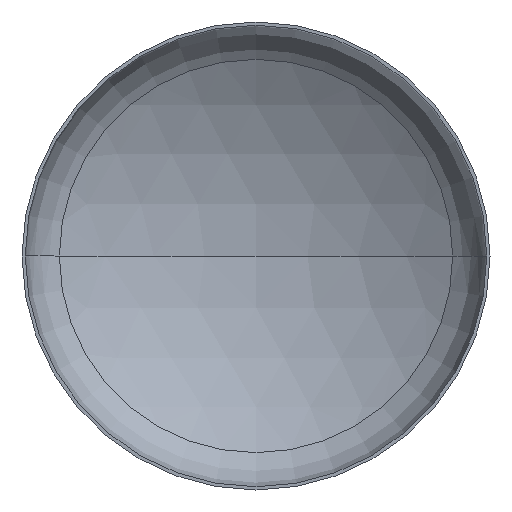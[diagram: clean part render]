
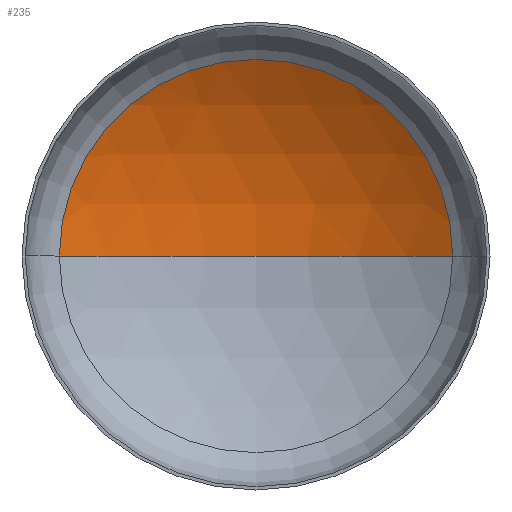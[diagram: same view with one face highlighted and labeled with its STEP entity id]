
A CAD part, front view. The second image highlights one B-rep face of the part: STEP entity #235.
In plain terms, the highlighted spherical face has radius 2400 mm.
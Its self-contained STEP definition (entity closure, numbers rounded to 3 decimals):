
#1 = AXIS2_PLACEMENT_3D ( 'NONE', #298, #296, #287 ) ;
#15 = VERTEX_POINT ( 'NONE', #291 ) ;
#16 = VERTEX_POINT ( 'NONE', #37 ) ;
#22 = AXIS2_PLACEMENT_3D ( 'NONE', #355, #311, #269 ) ;
#23 = CIRCLE ( 'NONE', #41, 1260.619 ) ;
#37 = CARTESIAN_POINT ( 'NONE',  ( -1260.619, 461.434, 0. ) ) ;
#41 = AXIS2_PLACEMENT_3D ( 'NONE', #206, #270, #294 ) ;
#49 = AXIS2_PLACEMENT_3D ( 'NONE', #323, #231, #128 ) ;
#58 = SPHERICAL_SURFACE ( 'NONE', #49, 2400. ) ;
#63 = VERTEX_POINT ( 'NONE', #229 ) ;
#85 = ORIENTED_EDGE ( 'NONE', *, *, #321, .T. ) ;
#111 = EDGE_LOOP ( 'NONE', ( #347, #161, #85 ) ) ;
#119 = CIRCLE ( 'NONE', #1, 2400. ) ;
#128 = DIRECTION ( 'NONE',  ( -1., 0., 0. ) ) ;
#161 = ORIENTED_EDGE ( 'NONE', *, *, #328, .T. ) ;
#206 = CARTESIAN_POINT ( 'NONE',  ( 0., 461.434, 0. ) ) ;
#229 = CARTESIAN_POINT ( 'NONE',  ( 1260.619, 461.434, 0. ) ) ;
#231 = DIRECTION ( 'NONE',  ( 0., 0., -1. ) ) ;
#235 = ADVANCED_FACE ( 'NONE', ( #306 ), #58, .F. ) ;
#269 = DIRECTION ( 'NONE',  ( -1., 0., 0. ) ) ;
#270 = DIRECTION ( 'NONE',  ( 0., -1., 0. ) ) ;
#286 = CIRCLE ( 'NONE', #22, 2400. ) ;
#287 = DIRECTION ( 'NONE',  ( 1., 0., 0. ) ) ;
#291 = CARTESIAN_POINT ( 'NONE',  ( 0., 819.17, 0. ) ) ;
#294 = DIRECTION ( 'NONE',  ( 1., 0., 0. ) ) ;
#296 = DIRECTION ( 'NONE',  ( 0., 0., 1. ) ) ;
#298 = CARTESIAN_POINT ( 'NONE',  ( 0., -1580.83, 0. ) ) ;
#306 = FACE_OUTER_BOUND ( 'NONE', #111, .T. ) ;
#311 = DIRECTION ( 'NONE',  ( 0., 0., -1. ) ) ;
#321 = EDGE_CURVE ( 'NONE', #63, #16, #23, .T. ) ;
#323 = CARTESIAN_POINT ( 'NONE',  ( 0., -1580.83, 0. ) ) ;
#328 = EDGE_CURVE ( 'NONE', #15, #63, #286, .T. ) ;
#347 = ORIENTED_EDGE ( 'NONE', *, *, #383, .F. ) ;
#355 = CARTESIAN_POINT ( 'NONE',  ( 0., -1580.83, 0. ) ) ;
#383 = EDGE_CURVE ( 'NONE', #15, #16, #119, .T. ) ;
